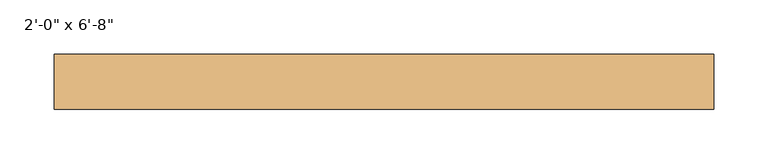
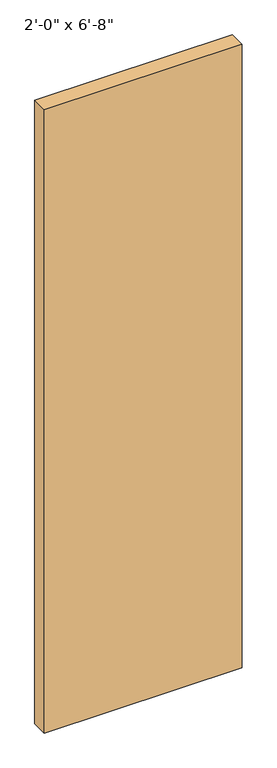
"""IFC4 building model written with IfcOpenShell, lengths in millimetres: door geometry."""

import ifcopenshell
import ifcopenshell.guid

model = None  # the IFC model being written
_history = None  # IfcOwnerHistory: only IFC2X3 demands one
_inside = {}  # id of a spatial element -> (the spatial element, [elements in it])
_under = {}  # id of a project, library or spatial element -> (it, [spatial elements below it])
_declared = {}  # id of a project -> (the project, [libraries it declares])
_typed = {}  # id of a type object -> (the type object, [elements of that type])
_made_of = {}  # id of a material, layer set ... -> (it, [elements and type objects made of it])


def new_model(schema):
    """Start an empty IFC model of exactly this schema.

    Asked for "IFC4X3", IfcOpenShell would pick the latest addendum, in which some entities
    have other attributes; the version numbers below select the first issue.
    IFC2X3 requires an IfcOwnerHistory on every rooted entity: one is made here for all.
    """
    global model, _history
    if schema == "IFC4X3":
        model = ifcopenshell.file(schema_version=(4, 3, 0, 0))
    else:
        model = ifcopenshell.file(schema=schema)
    _inside.clear()
    _under.clear()
    _declared.clear()
    _typed.clear()
    _made_of.clear()
    _history = None
    if model.schema == "IFC2X3":
        org = make("IfcOrganization", Name="unknown")
        user = make(
            "IfcPersonAndOrganization",
            ThePerson=make("IfcPerson", FamilyName="unknown"),
            TheOrganization=org,
        )
        app = make(
            "IfcApplication",
            ApplicationDeveloper=org,
            Version="unknown",
            ApplicationFullName="unknown",
            ApplicationIdentifier="unknown",
        )
        _history = make(
            "IfcOwnerHistory",
            OwningUser=user,
            OwningApplication=app,
            ChangeAction="ADDED",
            CreationDate=0,
        )
    return model


def make(cls, **values):
    """One entity of the class cls with the attributes given. An attribute that is None is left unset."""
    return model.create_entity(
        cls, **{name: value for name, value in values.items() if value is not None}
    )


def rooted(cls, **values):
    """An entity with a GlobalId (a new one), such as an element, a storey or a relation."""
    return make(cls, GlobalId=ifcopenshell.guid.new(), OwnerHistory=_history, **values)


def si_unit(unit_type, name, prefix=None):
    """IfcSIUnit, for example si_unit("LENGTHUNIT", "METRE", prefix="MILLI")."""
    return make("IfcSIUnit", UnitType=unit_type, Prefix=prefix, Name=name)


def assignment(units):
    """IfcUnitAssignment: the units of a project."""
    return None if units is None else make("IfcUnitAssignment", Units=units)


def point(xyz):
    """IfcCartesianPoint."""
    return None if xyz is None else make("IfcCartesianPoint", Coordinates=xyz)


def direction(xyz):
    """IfcDirection."""
    return None if xyz is None else make("IfcDirection", DirectionRatios=xyz)


def frame(location, z_axis=None, x_axis=None):
    """IfcAxis2Placement3D, a coordinate frame: its origin and axes. An axis left out is left unset."""
    return make(
        "IfcAxis2Placement3D",
        Location=point(location),
        Axis=direction(z_axis),
        RefDirection=direction(x_axis),
    )


def origin():
    """The frame at (0, 0, 0) with its axes left unset."""
    return frame((0.0, 0.0, 0.0))


def origin_with_axes():
    """The frame at (0, 0, 0) with the z axis (0, 0, 1) and the x axis (1, 0, 0) written out."""
    return frame((0.0, 0.0, 0.0), z_axis=(0.0, 0.0, 1.0), x_axis=(1.0, 0.0, 0.0))


def place(relative_to, where):
    """IfcLocalPlacement: puts the frame where relative to a parent placement (None: the world)."""
    return make(
        "IfcLocalPlacement", PlacementRelTo=relative_to, RelativePlacement=where
    )


def context(
    kind, dimensions, precision=None, world=None, true_north=None, identifier=None
):
    """IfcGeometricRepresentationContext, for example the 3D "Model" context."""
    return make(
        "IfcGeometricRepresentationContext",
        ContextIdentifier=identifier,
        ContextType=kind,
        CoordinateSpaceDimension=dimensions,
        Precision=precision,
        WorldCoordinateSystem=world,
        TrueNorth=true_north,
    )


def project(units=None, contexts=None):
    """IfcProject with its units and contexts."""
    return rooted(
        "IfcProject",
        Name="project",
        RepresentationContexts=contexts,
        UnitsInContext=assignment(units),
    )


def spatial(cls, under=None, at=None, **own):
    """A site, building, storey or space (cls), placed at a placement, below another one or the project."""
    s = rooted(cls, ObjectPlacement=at, **own)
    if under is not None:
        _under.setdefault(under.id(), (under, []))[1].append(s)
    return s


def polyline(points):
    """IfcPolyline through the points."""
    return make("IfcPolyline", Points=[point(p) for p in points])


def outline(outer, holes=None, kind="AREA"):
    """IfcArbitraryClosedProfileDef: a profile drawn as a closed curve; with holes, ...WithVoids."""
    if holes is None:
        return make("IfcArbitraryClosedProfileDef", ProfileType=kind, OuterCurve=outer)
    return make(
        "IfcArbitraryProfileDefWithVoids",
        ProfileType=kind,
        OuterCurve=outer,
        InnerCurves=holes,
    )


def extrude(swept, where, along, depth):
    """IfcExtrudedAreaSolid: the profile swept, set in the frame where, extruded along a direction by depth."""
    return make(
        "IfcExtrudedAreaSolid",
        SweptArea=swept,
        Position=where,
        ExtrudedDirection=direction(along),
        Depth=depth,
    )


def shape(context_of_items, identifier, shape_type, items):
    """IfcShapeRepresentation: the items that make up one representation, for example the "Body"."""
    return make(
        "IfcShapeRepresentation",
        ContextOfItems=context_of_items,
        RepresentationIdentifier=identifier,
        RepresentationType=shape_type,
        Items=items,
    )


def source(mapping_origin, context_of_items, identifier, shape_type, items):
    """IfcRepresentationMap: a shape defined once, which mapped items show again and again."""
    return make(
        "IfcRepresentationMap",
        MappingOrigin=mapping_origin,
        MappedRepresentation=shape(context_of_items, identifier, shape_type, items),
    )


def transform(
    local_origin,
    x_axis=None,
    y_axis=None,
    z_axis=None,
    scale=None,
    scale2=None,
    scale3=None,
    uniform=True,
):
    """IfcCartesianTransformationOperator3D, or its non-uniform kind. x_axis, y_axis, z_axis: its Axis1, 2, 3."""
    if uniform:
        return make(
            "IfcCartesianTransformationOperator3D",
            Axis1=direction(x_axis),
            Axis2=direction(y_axis),
            LocalOrigin=point(local_origin),
            Scale=scale,
            Axis3=direction(z_axis),
        )
    return make(
        "IfcCartesianTransformationOperator3DnonUniform",
        Axis1=direction(x_axis),
        Axis2=direction(y_axis),
        LocalOrigin=point(local_origin),
        Scale=scale,
        Axis3=direction(z_axis),
        Scale2=scale2,
        Scale3=scale3,
    )


def mapped(mapping_source, mapping_target):
    """IfcMappedItem: shows the shape of a source again, moved by a transform."""
    return make(
        "IfcMappedItem", MappingSource=mapping_source, MappingTarget=mapping_target
    )


def made_of(thing, what):
    """Note that an element or type object is made of a material, layer set ...; save() writes the relation."""
    if what is not None:
        _made_of.setdefault(what.id(), (what, []))[1].append(thing)
    return thing


def element(
    cls,
    number,
    at=None,
    inside=None,
    cuts=None,
    type_object=None,
    material=None,
    context=None,
    identifier="Body",
    shape_type=None,
    held_by="IfcProductDefinitionShape",
    body=None,
    shapes=None,
    **own,
):
    """One element of the class cls, such as IfcWall. Its Tag is "e" and its number.

    at: its placement. inside: the storey or other place that contains it. cuts: it is an
    opening in that element (IfcRelVoidsElement). A single representation is given by context,
    identifier, shape_type and body (its items); several are given by shapes. held_by: the class
    of the entity that holds the representations. save() writes the other relations.
    """
    e = rooted(cls, Tag="e%d" % number, ObjectPlacement=at, **own)
    if body is not None:
        shapes = [shape(context, identifier, shape_type, body)]
    if shapes is not None:
        e.Representation = make(held_by, Representations=shapes)
    if inside is not None:
        _inside.setdefault(inside.id(), (inside, []))[1].append(e)
    if cuts is not None:
        rooted(
            "IfcRelVoidsElement", RelatingBuildingElement=cuts, RelatedOpeningElement=e
        )
    if type_object is not None:
        _typed.setdefault(type_object.id(), (type_object, []))[1].append(e)
    return made_of(e, material)


def aggregate(whole, parts):
    """IfcRelAggregates: a whole, such as a stair, and the parts it consists of."""
    return rooted("IfcRelAggregates", RelatingObject=whole, RelatedObjects=parts)


def save(model, path):
    """Write the relations noted so far, then the file.

    IfcRelAggregates (storeys below a building ...), IfcRelContainedInSpatialStructure (elements
    in a storey), IfcRelDefinesByType, IfcRelAssociatesMaterial and IfcRelDeclares: one each for
    every whole, place, type object, material and project.
    """
    for whole, parts in _under.values():
        aggregate(whole, parts)
    for where, things in _inside.values():
        rooted(
            "IfcRelContainedInSpatialStructure",
            RelatedElements=things,
            RelatingStructure=where,
        )
    for kind, things in _typed.values():
        rooted("IfcRelDefinesByType", RelatedObjects=things, RelatingType=kind)
    for what, things in _made_of.values():
        rooted("IfcRelAssociatesMaterial", RelatedObjects=things, RelatingMaterial=what)
    for by, libraries in _declared.values():
        rooted("IfcRelDeclares", RelatingContext=by, RelatedDefinitions=libraries)
    model.write(path)


def door_5d97b8ff(model_context):
    return source(origin(), model_context, "Body", "SweptSolid", [
        extrude(outline(polyline([(304.8, 31.5515625), (-304.8, 31.5515625), (-304.8, 82.55), (304.8, 82.55), (304.8, 31.5515625)])), origin_with_axes(), (0.0, 0.0, 1.0), 2032.0),
    ])


if __name__ == "__main__":
    model = new_model("IFC4")
    model_context = context("Model", 3, world=origin())
    ifc_project = project(units=[si_unit("LENGTHUNIT", "METRE", prefix="MILLI")], contexts=[model_context])
    site = spatial("IfcSite", under=ifc_project)
    building = spatial("IfcBuilding", under=site)
    placement = place(None, origin())
    door_shape = door_5d97b8ff(model_context)
    element("IfcDoor", 1, ObjectType="Planitar - Single Door_Flush Panel : 2'-0\" x 6'-8\"", at=placement, inside=building, context=model_context, shape_type="MappedRepresentation", body=[
        mapped(door_shape, transform((0.0, 0.0, 0.0), x_axis=(1.0, 0.0, 0.0), y_axis=(0.0, 1.0, 0.0), z_axis=(0.0, 0.0, 1.0))),
    ])
    save(model, "model.ifc")
